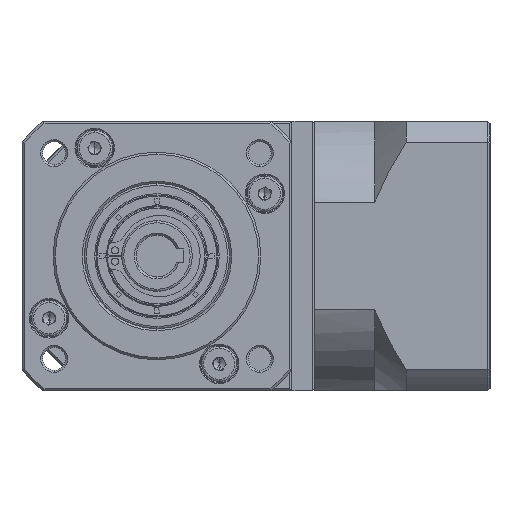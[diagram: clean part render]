
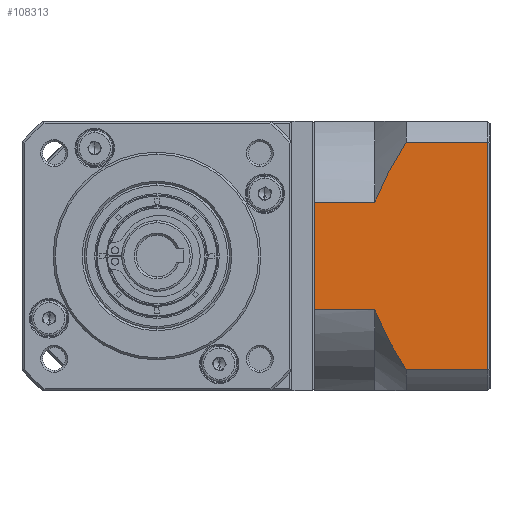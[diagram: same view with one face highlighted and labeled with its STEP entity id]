
A CAD part, left-side view. The second image highlights one B-rep face of the part: STEP entity #108313.
In plain terms, the highlighted planar face has unit normal (-1, 0, 0).
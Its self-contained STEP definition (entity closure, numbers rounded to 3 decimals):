
#467 = VECTOR ( 'NONE', #99600, 1000. ) ;
#511 = VERTEX_POINT ( 'NONE', #82548 ) ;
#774 = CARTESIAN_POINT ( 'NONE',  ( -45.204, -62.708, -146.14 ) ) ;
#1665 = VERTEX_POINT ( 'NONE', #43820 ) ;
#4098 = CARTESIAN_POINT ( 'NONE',  ( -45.204, -68.746, -158.267 ) ) ;
#4331 = LINE ( 'NONE', #124022, #467 ) ;
#5832 = DIRECTION ( 'NONE',  ( 1., 0., 0. ) ) ;
#11332 = EDGE_CURVE ( 'NONE', #119129, #127122, #4331, .T. ) ;
#12117 = VERTEX_POINT ( 'NONE', #42387 ) ;
#13242 = DIRECTION ( 'NONE',  ( 0., 1., 0. ) ) ;
#14121 = ORIENTED_EDGE ( 'NONE', *, *, #102486, .F. ) ;
#22367 = ORIENTED_EDGE ( 'NONE', *, *, #146357, .T. ) ;
#25769 = CARTESIAN_POINT ( 'NONE',  ( -45.204, -62.708, -105.763 ) ) ;
#26521 = CARTESIAN_POINT ( 'NONE',  ( -45.204, -62.708, -120.159 ) ) ;
#27154 = ORIENTED_EDGE ( 'NONE', *, *, #119831, .F. ) ;
#37338 = LINE ( 'NONE', #114649, #132394 ) ;
#40297 = ORIENTED_EDGE ( 'NONE', *, *, #11332, .F. ) ;
#40355 = DIRECTION ( 'NONE',  ( 0., 0., 1. ) ) ;
#42180 = EDGE_CURVE ( 'NONE', #63009, #114532, #113272, .T. ) ;
#42387 = CARTESIAN_POINT ( 'NONE',  ( -45.204, -70.208, -105.763 ) ) ;
#43820 = CARTESIAN_POINT ( 'NONE',  ( -45.204, -62.708, -146.14 ) ) ;
#44663 = CARTESIAN_POINT ( 'NONE',  ( -45.204, -89.908, -160.535 ) ) ;
#48744 = VECTOR ( 'NONE', #112511, 1000. ) ;
#51760 = CARTESIAN_POINT ( 'NONE',  ( -45.204, -62.946, -146.782 ) ) ;
#52024 = CARTESIAN_POINT ( 'NONE',  ( -45.204, -48.208, -165.649 ) ) ;
#52609 = LINE ( 'NONE', #25769, #48744 ) ;
#53375 = CARTESIAN_POINT ( 'NONE',  ( -45.204, -63.725, -148.682 ) ) ;
#55854 = VECTOR ( 'NONE', #13242, 1000. ) ;
#57270 = CARTESIAN_POINT ( 'NONE',  ( -45.204, -70.208, -105.763 ) ) ;
#57649 = B_SPLINE_CURVE_WITH_KNOTS ( 'NONE', 3,
 ( #57270, #69711, #132149, #57801, #144529, #70241, #156958, #82759 ),
 .UNSPECIFIED., .F., .F.,
 ( 4, 2, 2, 4 ),
 ( 0.058, 0.062, 0.066, 0.074 ),
 .UNSPECIFIED. ) ;
#57801 = CARTESIAN_POINT ( 'NONE',  ( -45.204, -67.375, -110.387 ) ) ;
#60324 = CARTESIAN_POINT ( 'NONE',  ( -45.204, -70.208, -160.535 ) ) ;
#61965 = EDGE_LOOP ( 'NONE', ( #93927, #22367, #14121, #88675, #40297, #97179, #27154, #69424 ) ) ;
#63009 = VERTEX_POINT ( 'NONE', #44663 ) ;
#63683 = CARTESIAN_POINT ( 'NONE',  ( -45.204, -62.708, -146.14 ) ) ;
#65821 = CARTESIAN_POINT ( 'NONE',  ( -45.204, -64.849, -151.16 ) ) ;
#69424 = ORIENTED_EDGE ( 'NONE', *, *, #132899, .T. ) ;
#69711 = CARTESIAN_POINT ( 'NONE',  ( -45.204, -69.475, -106.901 ) ) ;
#70241 = CARTESIAN_POINT ( 'NONE',  ( -45.204, -64.795, -115.169 ) ) ;
#72082 = CARTESIAN_POINT ( 'NONE',  ( -45.204, -48.208, -146.14 ) ) ;
#74868 = DIRECTION ( 'NONE',  ( 0., 0., -1. ) ) ;
#77676 = VERTEX_POINT ( 'NONE', #72082 ) ;
#78311 = CARTESIAN_POINT ( 'NONE',  ( -45.204, -67.359, -155.953 ) ) ;
#80007 = CARTESIAN_POINT ( 'NONE',  ( -45.204, -90.408, -165.649 ) ) ;
#82548 = CARTESIAN_POINT ( 'NONE',  ( -45.204, -89.908, -105.763 ) ) ;
#82759 = CARTESIAN_POINT ( 'NONE',  ( -45.204, -62.708, -120.159 ) ) ;
#88675 = ORIENTED_EDGE ( 'NONE', *, *, #142599, .T. ) ;
#90103 = EDGE_CURVE ( 'NONE', #119129, #77676, #125797, .T. ) ;
#90778 = CARTESIAN_POINT ( 'NONE',  ( -45.204, -70.208, -160.535 ) ) ;
#92501 = DIRECTION ( 'NONE',  ( 0., 1., 0. ) ) ;
#93927 = ORIENTED_EDGE ( 'NONE', *, *, #42180, .F. ) ;
#97179 = ORIENTED_EDGE ( 'NONE', *, *, #90103, .T. ) ;
#99600 = DIRECTION ( 'NONE',  ( 0., -1., 0. ) ) ;
#100071 = B_SPLINE_CURVE_WITH_KNOTS ( 'NONE', 3,
 ( #63683, #51760, #127765, #53375, #140155, #65821, #152582, #78311, #4098, #90778 ),
 .UNSPECIFIED., .F., .F.,
 ( 4, 2, 2, 2, 4 ),
 ( 0.101, 0.103, 0.105, 0.109, 0.117 ),
 .UNSPECIFIED. ) ;
#102486 = EDGE_CURVE ( 'NONE', #12117, #511, #52609, .T. ) ;
#108313 = ADVANCED_FACE ( 'NONE', ( #160584 ), #114779, .F. ) ;
#109411 = VECTOR ( 'NONE', #130337, 1000. ) ;
#112511 = DIRECTION ( 'NONE',  ( 0., -1., 0. ) ) ;
#113272 = LINE ( 'NONE', #130874, #109411 ) ;
#114532 = VERTEX_POINT ( 'NONE', #60324 ) ;
#114649 = CARTESIAN_POINT ( 'NONE',  ( -45.204, -89.908, -165.649 ) ) ;
#114779 = PLANE ( 'NONE',  #158563 ) ;
#119129 = VERTEX_POINT ( 'NONE', #134943 ) ;
#119831 = EDGE_CURVE ( 'NONE', #1665, #77676, #154736, .T. ) ;
#124022 = CARTESIAN_POINT ( 'NONE',  ( -45.204, -62.708, -120.159 ) ) ;
#125797 = LINE ( 'NONE', #52024, #154775 ) ;
#127122 = VERTEX_POINT ( 'NONE', #26521 ) ;
#127765 = CARTESIAN_POINT ( 'NONE',  ( -45.204, -63.199, -147.421 ) ) ;
#130337 = DIRECTION ( 'NONE',  ( 0., 1., 0. ) ) ;
#130874 = CARTESIAN_POINT ( 'NONE',  ( -45.204, -62.708, -160.535 ) ) ;
#132149 = CARTESIAN_POINT ( 'NONE',  ( -45.204, -68.759, -108.052 ) ) ;
#132394 = VECTOR ( 'NONE', #40355, 1000. ) ;
#132899 = EDGE_CURVE ( 'NONE', #1665, #114532, #100071, .T. ) ;
#134943 = CARTESIAN_POINT ( 'NONE',  ( -45.204, -48.208, -120.159 ) ) ;
#140155 = CARTESIAN_POINT ( 'NONE',  ( -45.204, -63.998, -149.306 ) ) ;
#142599 = EDGE_CURVE ( 'NONE', #12117, #127122, #57649, .T. ) ;
#144529 = CARTESIAN_POINT ( 'NONE',  ( -45.204, -66.705, -111.573 ) ) ;
#146357 = EDGE_CURVE ( 'NONE', #63009, #511, #37338, .T. ) ;
#152582 = CARTESIAN_POINT ( 'NONE',  ( -45.204, -65.454, -152.372 ) ) ;
#154736 = LINE ( 'NONE', #774, #55854 ) ;
#154775 = VECTOR ( 'NONE', #74868, 1000. ) ;
#156958 = CARTESIAN_POINT ( 'NONE',  ( -45.204, -63.65, -117.621 ) ) ;
#158563 = AXIS2_PLACEMENT_3D ( 'NONE', #80007, #5832, #92501 ) ;
#160584 = FACE_OUTER_BOUND ( 'NONE', #61965, .T. ) ;
